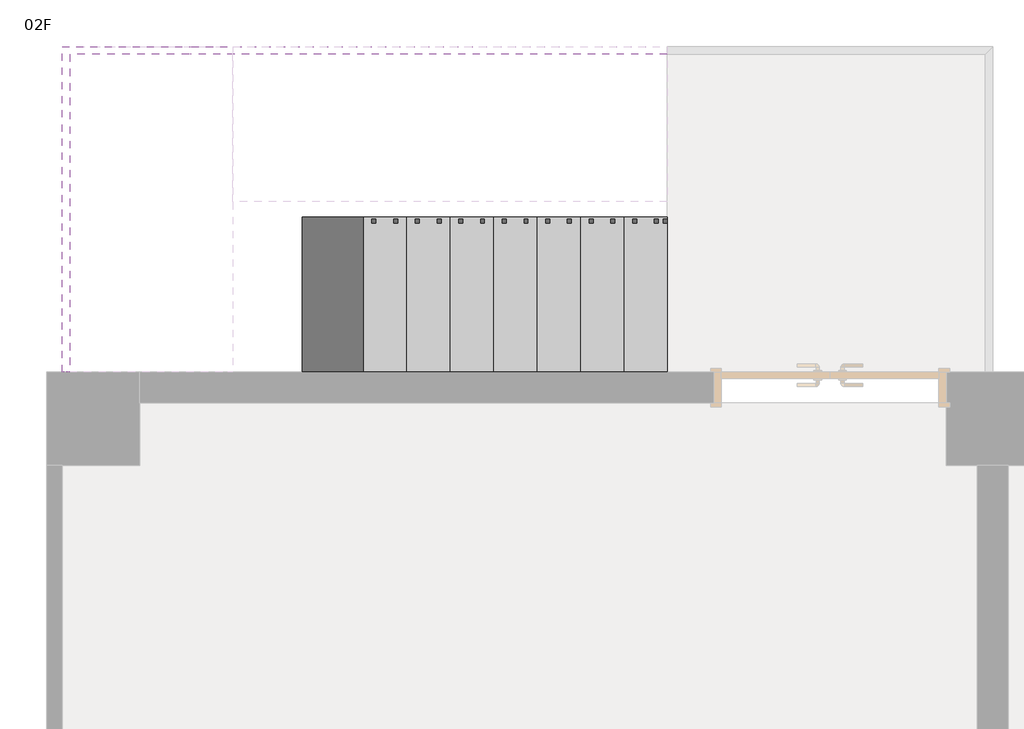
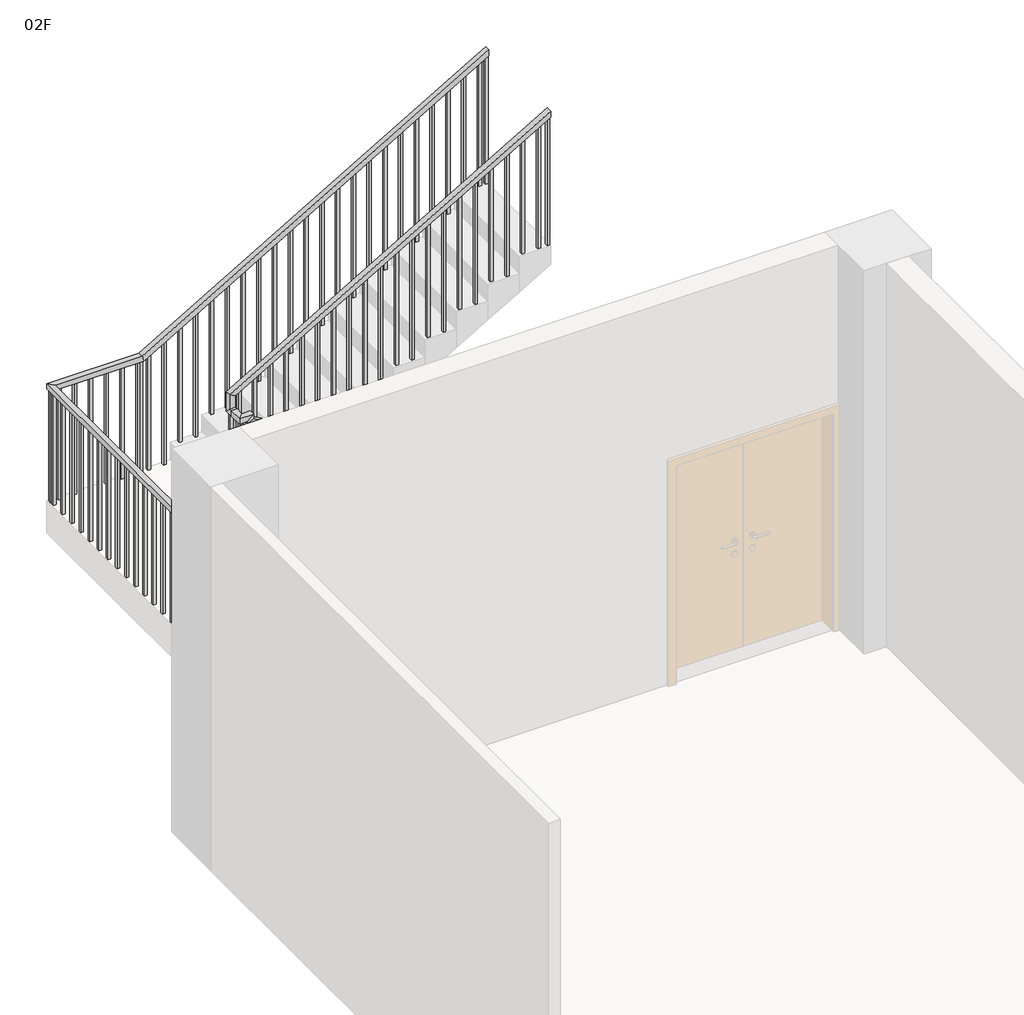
# One storey, part 2 of 3: 2 railings, 1 stair flight.
"""IFC4 building model written with IfcOpenShell, lengths in millimetres."""

import ifcopenshell
import ifcopenshell.guid

model = None  # the IFC model being written
_history = None  # IfcOwnerHistory: only IFC2X3 demands one
_inside = {}  # id of a spatial element -> (the spatial element, [elements in it])
_under = {}  # id of a project, library or spatial element -> (it, [spatial elements below it])
_declared = {}  # id of a project -> (the project, [libraries it declares])
_typed = {}  # id of a type object -> (the type object, [elements of that type])
_made_of = {}  # id of a material, layer set ... -> (it, [elements and type objects made of it])


def new_model(schema):
    """Start an empty IFC model of exactly this schema.

    Asked for "IFC4X3", IfcOpenShell would pick the latest addendum, in which some entities
    have other attributes; the version numbers below select the first issue.
    IFC2X3 requires an IfcOwnerHistory on every rooted entity: one is made here for all.
    """
    global model, _history
    if schema == "IFC4X3":
        model = ifcopenshell.file(schema_version=(4, 3, 0, 0))
    else:
        model = ifcopenshell.file(schema=schema)
    _inside.clear()
    _under.clear()
    _declared.clear()
    _typed.clear()
    _made_of.clear()
    _history = None
    if model.schema == "IFC2X3":
        org = make("IfcOrganization", Name="unknown")
        user = make(
            "IfcPersonAndOrganization",
            ThePerson=make("IfcPerson", FamilyName="unknown"),
            TheOrganization=org,
        )
        app = make(
            "IfcApplication",
            ApplicationDeveloper=org,
            Version="unknown",
            ApplicationFullName="unknown",
            ApplicationIdentifier="unknown",
        )
        _history = make(
            "IfcOwnerHistory",
            OwningUser=user,
            OwningApplication=app,
            ChangeAction="ADDED",
            CreationDate=0,
        )
    return model


def make(cls, **values):
    """One entity of the class cls with the attributes given. An attribute that is None is left unset."""
    return model.create_entity(
        cls, **{name: value for name, value in values.items() if value is not None}
    )


def rooted(cls, **values):
    """An entity with a GlobalId (a new one), such as an element, a storey or a relation."""
    return make(cls, GlobalId=ifcopenshell.guid.new(), OwnerHistory=_history, **values)


def si_unit(unit_type, name, prefix=None):
    """IfcSIUnit, for example si_unit("LENGTHUNIT", "METRE", prefix="MILLI")."""
    return make("IfcSIUnit", UnitType=unit_type, Prefix=prefix, Name=name)


def assignment(units):
    """IfcUnitAssignment: the units of a project."""
    return None if units is None else make("IfcUnitAssignment", Units=units)


def point(xyz):
    """IfcCartesianPoint."""
    return None if xyz is None else make("IfcCartesianPoint", Coordinates=xyz)


def direction(xyz):
    """IfcDirection."""
    return None if xyz is None else make("IfcDirection", DirectionRatios=xyz)


def frame(location, z_axis=None, x_axis=None):
    """IfcAxis2Placement3D, a coordinate frame: its origin and axes. An axis left out is left unset."""
    return make(
        "IfcAxis2Placement3D",
        Location=point(location),
        Axis=direction(z_axis),
        RefDirection=direction(x_axis),
    )


def origin():
    """The frame at (0, 0, 0) with its axes left unset."""
    return frame((0.0, 0.0, 0.0))


def place(relative_to, where):
    """IfcLocalPlacement: puts the frame where relative to a parent placement (None: the world)."""
    return make(
        "IfcLocalPlacement", PlacementRelTo=relative_to, RelativePlacement=where
    )


def context(
    kind, dimensions, precision=None, world=None, true_north=None, identifier=None
):
    """IfcGeometricRepresentationContext, for example the 3D "Model" context."""
    return make(
        "IfcGeometricRepresentationContext",
        ContextIdentifier=identifier,
        ContextType=kind,
        CoordinateSpaceDimension=dimensions,
        Precision=precision,
        WorldCoordinateSystem=world,
        TrueNorth=true_north,
    )


def project(units=None, contexts=None):
    """IfcProject with its units and contexts."""
    return rooted(
        "IfcProject",
        Name="project",
        RepresentationContexts=contexts,
        UnitsInContext=assignment(units),
    )


def spatial(cls, under=None, at=None, **own):
    """A site, building, storey or space (cls), placed at a placement, below another one or the project."""
    s = rooted(cls, ObjectPlacement=at, **own)
    if under is not None:
        _under.setdefault(under.id(), (under, []))[1].append(s)
    return s


def polyline(points):
    """IfcPolyline through the points."""
    return make("IfcPolyline", Points=[point(p) for p in points])


def outline(outer, holes=None, kind="AREA"):
    """IfcArbitraryClosedProfileDef: a profile drawn as a closed curve; with holes, ...WithVoids."""
    if holes is None:
        return make("IfcArbitraryClosedProfileDef", ProfileType=kind, OuterCurve=outer)
    return make(
        "IfcArbitraryProfileDefWithVoids",
        ProfileType=kind,
        OuterCurve=outer,
        InnerCurves=holes,
    )


def extrude(swept, where, along, depth):
    """IfcExtrudedAreaSolid: the profile swept, set in the frame where, extruded along a direction by depth."""
    return make(
        "IfcExtrudedAreaSolid",
        SweptArea=swept,
        Position=where,
        ExtrudedDirection=direction(along),
        Depth=depth,
    )


def faces_of(points, faces, orient=None, outer=None):
    """IfcFace entities. A face is a list of loops; a loop is a list of indices into points, from 0.

    orient and outer hold one flag for each loop. By default every Orientation is true, the
    first loop of a face is its IfcFaceOuterBound and the others are IfcFaceBound.
    """
    made = []
    for i, loops in enumerate(faces):
        bounds = []
        for j, loop in enumerate(loops):
            is_outer = j == 0 if outer is None else outer[i][j]
            bounds.append(
                make(
                    "IfcFaceOuterBound" if is_outer else "IfcFaceBound",
                    Bound=make("IfcPolyLoop", Polygon=[points[k] for k in loop]),
                    Orientation=True if orient is None else orient[i][j],
                )
            )
        made.append(make("IfcFace", Bounds=bounds))
    return made


def faceted_brep(points, faces, orient=None, outer=None, voids=None):
    """IfcFacetedBrep: a solid bounded by flat faces; with voids (closed shells), ...WithVoids."""
    shared = [point(p) for p in points]
    hull = make("IfcClosedShell", CfsFaces=faces_of(shared, faces, orient, outer))
    if voids is None:
        return make("IfcFacetedBrep", Outer=hull)
    return make(
        "IfcFacetedBrepWithVoids",
        Outer=hull,
        Voids=[
            make(cls, CfsFaces=faces_of(shared, fs, o, b)) for cls, fs, o, b in voids
        ],
    )


def shape(context_of_items, identifier, shape_type, items):
    """IfcShapeRepresentation: the items that make up one representation, for example the "Body"."""
    return make(
        "IfcShapeRepresentation",
        ContextOfItems=context_of_items,
        RepresentationIdentifier=identifier,
        RepresentationType=shape_type,
        Items=items,
    )


def made_of(thing, what):
    """Note that an element or type object is made of a material, layer set ...; save() writes the relation."""
    if what is not None:
        _made_of.setdefault(what.id(), (what, []))[1].append(thing)
    return thing


def element(
    cls,
    number,
    at=None,
    inside=None,
    cuts=None,
    type_object=None,
    material=None,
    context=None,
    identifier="Body",
    shape_type=None,
    held_by="IfcProductDefinitionShape",
    body=None,
    shapes=None,
    **own,
):
    """One element of the class cls, such as IfcWall. Its Tag is "e" and its number.

    at: its placement. inside: the storey or other place that contains it. cuts: it is an
    opening in that element (IfcRelVoidsElement). A single representation is given by context,
    identifier, shape_type and body (its items); several are given by shapes. held_by: the class
    of the entity that holds the representations. save() writes the other relations.
    """
    e = rooted(cls, Tag="e%d" % number, ObjectPlacement=at, **own)
    if body is not None:
        shapes = [shape(context, identifier, shape_type, body)]
    if shapes is not None:
        e.Representation = make(held_by, Representations=shapes)
    if inside is not None:
        _inside.setdefault(inside.id(), (inside, []))[1].append(e)
    if cuts is not None:
        rooted(
            "IfcRelVoidsElement", RelatingBuildingElement=cuts, RelatedOpeningElement=e
        )
    if type_object is not None:
        _typed.setdefault(type_object.id(), (type_object, []))[1].append(e)
    return made_of(e, material)


def aggregate(whole, parts):
    """IfcRelAggregates: a whole, such as a stair, and the parts it consists of."""
    return rooted("IfcRelAggregates", RelatingObject=whole, RelatedObjects=parts)


def save(model, path):
    """Write the relations noted so far, then the file.

    IfcRelAggregates (storeys below a building ...), IfcRelContainedInSpatialStructure (elements
    in a storey), IfcRelDefinesByType, IfcRelAssociatesMaterial and IfcRelDeclares: one each for
    every whole, place, type object, material and project.
    """
    for whole, parts in _under.values():
        aggregate(whole, parts)
    for where, things in _inside.values():
        rooted(
            "IfcRelContainedInSpatialStructure",
            RelatedElements=things,
            RelatingStructure=where,
        )
    for kind, things in _typed.values():
        rooted("IfcRelDefinesByType", RelatedObjects=things, RelatingType=kind)
    for what, things in _made_of.values():
        rooted("IfcRelAssociatesMaterial", RelatedObjects=things, RelatingMaterial=what)
    for by, libraries in _declared.values():
        rooted("IfcRelDeclares", RelatingContext=by, RelatedDefinitions=libraries)
    model.write(path)


model = new_model("IFC4")

# Units and contexts
model_context = context("Model", 3, world=origin())
ifc_project = project(units=[si_unit("LENGTHUNIT", "METRE", prefix="MILLI")], contexts=[model_context])

# Site, building, storey
site = spatial("IfcSite", under=ifc_project)
building = spatial("IfcBuilding", under=site)
storey = spatial("IfcBuildingStorey", under=building, Name="02F", Elevation=3600.0)

# Railings
placement = place(None, origin())
element("IfcRailing", 1, ObjectType="1100mm", at=placement, inside=storey, context=model_context, shape_type="SolidModel", body=[
    faceted_brep([(3900.0, 14549.6, 4863.6363636), (3900.0, 14549.6, 4805.7238957), (3900.0, 14599.6, 4805.7238957), (3900.0, 14599.6, 4863.6363636), (1174.6, 14549.6, 6456.4025974), (1124.6, 14549.6, 6427.7109087), (1124.6, 14599.6, 6427.7109087), (1174.6, 14599.6, 6456.4025974), (1174.6, 14549.6, 6500.0), (1124.6, 14549.6, 6450.0), (1124.6, 14599.6, 6450.0), (1174.6, 14599.6, 6500.0), (1049.6, 14549.6, 6500.0), (1049.6, 14549.6, 6450.0), (1099.6, 14599.6, 6450.0), (1099.6, 14599.6, 6500.0), (1049.6, 14674.6, 6500.0), (1049.6, 14674.6, 6450.0), (1099.6, 14674.6, 6450.0), (1099.6, 14674.6, 6500.0), (1049.6, 14700.4, 6500.0), (1099.6, 14700.4, 6500.0), (1099.6, 14750.4, 6450.0), (1049.6, 14750.4, 6450.0)], [[[0, 1, 2, 3]], [[1, 0, 4, 5]], [[2, 1, 5, 6]], [[3, 2, 6, 7]], [[0, 3, 7, 4]], [[5, 4, 8, 9]], [[6, 5, 9, 10]], [[7, 6, 10, 11]], [[4, 7, 11, 8]], [[9, 8, 12, 13]], [[10, 9, 13, 14]], [[11, 10, 14, 15]], [[8, 11, 15, 12]], [[13, 12, 16, 17]], [[14, 13, 17, 18]], [[15, 14, 18, 19]], [[12, 15, 19, 16]], [[20, 21, 22, 23]], [[17, 16, 20, 23]], [[18, 17, 23, 22]], [[19, 18, 22, 21]], [[16, 19, 21, 20]]]),
    faceted_brep([(1049.6, 14700.4, 6500.0), (1049.6, 14750.4, 6450.0), (1099.6, 14750.4, 6450.0), (1099.6, 14700.4, 6500.0), (1049.6, 14700.4, 6634.1818182), (1099.6, 14700.4, 6605.4901295), (1099.6, 14750.4, 6605.4901295), (1049.6, 14750.4, 6634.1818182)], [[[0, 1, 2, 3]], [[4, 5, 6, 7]], [[1, 0, 4, 7]], [[2, 1, 7, 6]], [[3, 2, 6, 5]], [[0, 3, 5, 4]]]),
    faceted_brep([(1049.6, 14750.4, 6634.1818182), (1099.6, 14750.4, 6605.4901295), (1099.6, 14700.4, 6605.4901295), (1049.6, 14700.4, 6634.1818182), (3900.0, 14750.4, 8300.0), (3900.0, 14700.4, 8300.0), (3900.0, 14700.4, 8242.0875321), (3900.0, 14750.4, 8242.0875321)], [[[0, 1, 2, 3]], [[4, 5, 6, 7]], [[1, 0, 4, 7]], [[2, 1, 7, 6]], [[3, 2, 6, 5]], [[0, 3, 5, 4]]]),
    extrude(outline(polyline([(8179.0290905, 3792.1), (7036.3636364, 3792.1), (7036.3636364, 3817.1), (8193.6394802, 3817.1), (8179.0290905, 3792.1)])), frame((0.0, 14712.9, 0.0), z_axis=(0.0, 1.0, 0.0), x_axis=(0.0, 0.0, 1.0)), (0.0, 0.0, 1.0), 25.0),
    extrude(outline(polyline([(8097.2109087, 3652.1), (7036.3636364, 3652.1), (7036.3636364, 3677.1), (8111.8212983, 3677.1), (8097.2109087, 3652.1)])), frame((0.0, 14712.9, 0.0), z_axis=(0.0, 1.0, 0.0), x_axis=(0.0, 0.0, 1.0)), (0.0, 0.0, 1.0), 25.0),
    extrude(outline(polyline([(8015.3927269, 3512.1), (6872.7272727, 3512.1), (6872.7272727, 3537.1), (8030.0031165, 3537.1), (8015.3927269, 3512.1)])), frame((0.0, 14712.9, 0.0), z_axis=(0.0, 1.0, 0.0), x_axis=(0.0, 0.0, 1.0)), (0.0, 0.0, 1.0), 25.0),
    extrude(outline(polyline([(7933.5745451, 3372.1), (6872.7272727, 3372.1), (6872.7272727, 3397.1), (7948.1849347, 3397.1), (7933.5745451, 3372.1)])), frame((0.0, 14712.9, 0.0), z_axis=(0.0, 1.0, 0.0), x_axis=(0.0, 0.0, 1.0)), (0.0, 0.0, 1.0), 25.0),
    extrude(outline(polyline([(7851.7563633, 3232.1), (6709.0909091, 3232.1), (6709.0909091, 3257.1), (7866.3667529, 3257.1), (7851.7563633, 3232.1)])), frame((0.0, 14712.9, 0.0), z_axis=(0.0, 1.0, 0.0), x_axis=(0.0, 0.0, 1.0)), (0.0, 0.0, 1.0), 25.0),
    extrude(outline(polyline([(7769.9381815, 3092.1), (6709.0909091, 3092.1), (6709.0909091, 3117.1), (7784.5485711, 3117.1), (7769.9381815, 3092.1)])), frame((0.0, 14712.9, 0.0), z_axis=(0.0, 1.0, 0.0), x_axis=(0.0, 0.0, 1.0)), (0.0, 0.0, 1.0), 25.0),
    extrude(outline(polyline([(7688.1199996, 2952.1), (6545.4545455, 2952.1), (6545.4545455, 2977.1), (7702.7303892, 2977.1), (7688.1199996, 2952.1)])), frame((0.0, 14712.9, 0.0), z_axis=(0.0, 1.0, 0.0), x_axis=(0.0, 0.0, 1.0)), (0.0, 0.0, 1.0), 25.0),
    extrude(outline(polyline([(7606.3018178, 2812.1), (6545.4545455, 2812.1), (6545.4545455, 2837.1), (7620.9122074, 2837.1), (7606.3018178, 2812.1)])), frame((0.0, 14712.9, 0.0), z_axis=(0.0, 1.0, 0.0), x_axis=(0.0, 0.0, 1.0)), (0.0, 0.0, 1.0), 25.0),
    extrude(outline(polyline([(7524.483636, 2672.1), (6381.8181818, 2672.1), (6381.8181818, 2697.1), (7539.0940256, 2697.1), (7524.483636, 2672.1)])), frame((0.0, 14712.9, 0.0), z_axis=(0.0, 1.0, 0.0), x_axis=(0.0, 0.0, 1.0)), (0.0, 0.0, 1.0), 25.0),
    extrude(outline(polyline([(7442.6654542, 2532.1), (6381.8181818, 2532.1), (6381.8181818, 2557.1), (7457.2758438, 2557.1), (7442.6654542, 2532.1)])), frame((0.0, 14712.9, 0.0), z_axis=(0.0, 1.0, 0.0), x_axis=(0.0, 0.0, 1.0)), (0.0, 0.0, 1.0), 25.0),
    extrude(outline(polyline([(7360.8472724, 2392.1), (6218.1818182, 2392.1), (6218.1818182, 2417.1), (7375.457662, 2417.1), (7360.8472724, 2392.1)])), frame((0.0, 14712.9, 0.0), z_axis=(0.0, 1.0, 0.0), x_axis=(0.0, 0.0, 1.0)), (0.0, 0.0, 1.0), 25.0),
    extrude(outline(polyline([(7279.0290905, 2252.1), (6218.1818182, 2252.1), (6218.1818182, 2277.1), (7293.6394802, 2277.1), (7279.0290905, 2252.1)])), frame((0.0, 14712.9, 0.0), z_axis=(0.0, 1.0, 0.0), x_axis=(0.0, 0.0, 1.0)), (0.0, 0.0, 1.0), 25.0),
    extrude(outline(polyline([(7197.2109087, 2112.1), (6054.5454545, 2112.1), (6054.5454545, 2137.1), (7211.8212983, 2137.1), (7197.2109087, 2112.1)])), frame((0.0, 14712.9, 0.0), z_axis=(0.0, 1.0, 0.0), x_axis=(0.0, 0.0, 1.0)), (0.0, 0.0, 1.0), 25.0),
    extrude(outline(polyline([(7115.3927269, 1972.1), (6054.5454545, 1972.1), (6054.5454545, 1997.1), (7130.0031165, 1997.1), (7115.3927269, 1972.1)])), frame((0.0, 14712.9, 0.0), z_axis=(0.0, 1.0, 0.0), x_axis=(0.0, 0.0, 1.0)), (0.0, 0.0, 1.0), 25.0),
    extrude(outline(polyline([(7033.5745451, 1832.1), (5890.9090909, 1832.1), (5890.9090909, 1857.1), (7048.1849347, 1857.1), (7033.5745451, 1832.1)])), frame((0.0, 14712.9, 0.0), z_axis=(0.0, 1.0, 0.0), x_axis=(0.0, 0.0, 1.0)), (0.0, 0.0, 1.0), 25.0),
    extrude(outline(polyline([(6951.7563633, 1692.1), (5890.9090909, 1692.1), (5890.9090909, 1717.1), (6966.3667529, 1717.1), (6951.7563633, 1692.1)])), frame((0.0, 14712.9, 0.0), z_axis=(0.0, 1.0, 0.0), x_axis=(0.0, 0.0, 1.0)), (0.0, 0.0, 1.0), 25.0),
    extrude(outline(polyline([(6869.9381815, 1552.1), (5727.2727273, 1552.1), (5727.2727273, 1577.1), (6884.5485711, 1577.1), (6869.9381815, 1552.1)])), frame((0.0, 14712.9, 0.0), z_axis=(0.0, 1.0, 0.0), x_axis=(0.0, 0.0, 1.0)), (0.0, 0.0, 1.0), 25.0),
    extrude(outline(polyline([(6788.1199996, 1412.1), (5727.2727273, 1412.1), (5727.2727273, 1437.1), (6802.7303892, 1437.1), (6788.1199996, 1412.1)])), frame((0.0, 14712.9, 0.0), z_axis=(0.0, 1.0, 0.0), x_axis=(0.0, 0.0, 1.0)), (0.0, 0.0, 1.0), 25.0),
    extrude(outline(polyline([(6706.3018178, 1272.1), (5563.6363636, 1272.1), (5563.6363636, 1297.1), (6720.9122074, 1297.1), (6706.3018178, 1272.1)])), frame((0.0, 14712.9, 0.0), z_axis=(0.0, 1.0, 0.0), x_axis=(0.0, 0.0, 1.0)), (0.0, 0.0, 1.0), 25.0),
    extrude(outline(polyline([(6624.483636, 1132.1), (5563.6363636, 1132.1), (5563.6363636, 1157.1), (6639.0940256, 1157.1), (6624.483636, 1132.1)])), frame((0.0, 14712.9, 0.0), z_axis=(0.0, 1.0, 0.0), x_axis=(0.0, 0.0, 1.0)), (0.0, 0.0, 1.0), 25.0),
    extrude(outline(polyline([(1087.1, 14632.1), (1062.1, 14632.1), (1062.1, 14657.1), (1087.1, 14657.1), (1087.1, 14632.1)])), frame((0.0, 0.0, 5400.0), z_axis=(0.0, 0.0, 1.0), x_axis=(1.0, 0.0, 0.0)), (0.0, 0.0, 1.0), 1050.0),
    extrude(outline(polyline([(5236.3636364, 1182.5), (6393.8732464, 1182.5), (6408.483636, 1157.5), (5236.3636364, 1157.5), (5236.3636364, 1182.5)])), frame((0.0, 14562.1, 0.0), z_axis=(0.0, 1.0, 0.0), x_axis=(0.0, 0.0, 1.0)), (0.0, 0.0, 1.0), 25.0),
    extrude(outline(polyline([(5236.3636364, 1322.5), (6312.0550646, 1322.5), (6326.6654542, 1297.5), (5236.3636364, 1297.5), (5236.3636364, 1322.5)])), frame((0.0, 14562.1, 0.0), z_axis=(0.0, 1.0, 0.0), x_axis=(0.0, 0.0, 1.0)), (0.0, 0.0, 1.0), 25.0),
    extrude(outline(polyline([(5072.7272727, 1462.5), (6230.2368827, 1462.5), (6244.8472724, 1437.5), (5072.7272727, 1437.5), (5072.7272727, 1462.5)])), frame((0.0, 14562.1, 0.0), z_axis=(0.0, 1.0, 0.0), x_axis=(0.0, 0.0, 1.0)), (0.0, 0.0, 1.0), 25.0),
    extrude(outline(polyline([(5072.7272727, 1602.5), (6148.4187009, 1602.5), (6163.0290905, 1577.5), (5072.7272727, 1577.5), (5072.7272727, 1602.5)])), frame((0.0, 14562.1, 0.0), z_axis=(0.0, 1.0, 0.0), x_axis=(0.0, 0.0, 1.0)), (0.0, 0.0, 1.0), 25.0),
    extrude(outline(polyline([(4909.0909091, 1742.5), (6066.6005191, 1742.5), (6081.2109087, 1717.5), (4909.0909091, 1717.5), (4909.0909091, 1742.5)])), frame((0.0, 14562.1, 0.0), z_axis=(0.0, 1.0, 0.0), x_axis=(0.0, 0.0, 1.0)), (0.0, 0.0, 1.0), 25.0),
    extrude(outline(polyline([(4909.0909091, 1882.5), (5984.7823373, 1882.5), (5999.3927269, 1857.5), (4909.0909091, 1857.5), (4909.0909091, 1882.5)])), frame((0.0, 14562.1, 0.0), z_axis=(0.0, 1.0, 0.0), x_axis=(0.0, 0.0, 1.0)), (0.0, 0.0, 1.0), 25.0),
    extrude(outline(polyline([(4745.4545455, 2022.5), (5902.9641555, 2022.5), (5917.5745451, 1997.5), (4745.4545455, 1997.5), (4745.4545455, 2022.5)])), frame((0.0, 14562.1, 0.0), z_axis=(0.0, 1.0, 0.0), x_axis=(0.0, 0.0, 1.0)), (0.0, 0.0, 1.0), 25.0),
    extrude(outline(polyline([(4745.4545455, 2162.5), (5821.1459737, 2162.5), (5835.7563633, 2137.5), (4745.4545455, 2137.5), (4745.4545455, 2162.5)])), frame((0.0, 14562.1, 0.0), z_axis=(0.0, 1.0, 0.0), x_axis=(0.0, 0.0, 1.0)), (0.0, 0.0, 1.0), 25.0),
    extrude(outline(polyline([(4581.8181818, 2302.5), (5739.3277918, 2302.5), (5753.9381815, 2277.5), (4581.8181818, 2277.5), (4581.8181818, 2302.5)])), frame((0.0, 14562.1, 0.0), z_axis=(0.0, 1.0, 0.0), x_axis=(0.0, 0.0, 1.0)), (0.0, 0.0, 1.0), 25.0),
    extrude(outline(polyline([(4581.8181818, 2442.5), (5657.50961, 2442.5), (5672.1199996, 2417.5), (4581.8181818, 2417.5), (4581.8181818, 2442.5)])), frame((0.0, 14562.1, 0.0), z_axis=(0.0, 1.0, 0.0), x_axis=(0.0, 0.0, 1.0)), (0.0, 0.0, 1.0), 25.0),
    extrude(outline(polyline([(4418.1818182, 2582.5), (5575.6914282, 2582.5), (5590.3018178, 2557.5), (4418.1818182, 2557.5), (4418.1818182, 2582.5)])), frame((0.0, 14562.1, 0.0), z_axis=(0.0, 1.0, 0.0), x_axis=(0.0, 0.0, 1.0)), (0.0, 0.0, 1.0), 25.0),
    extrude(outline(polyline([(4418.1818182, 2722.5), (5493.8732464, 2722.5), (5508.483636, 2697.5), (4418.1818182, 2697.5), (4418.1818182, 2722.5)])), frame((0.0, 14562.1, 0.0), z_axis=(0.0, 1.0, 0.0), x_axis=(0.0, 0.0, 1.0)), (0.0, 0.0, 1.0), 25.0),
    extrude(outline(polyline([(4254.5454545, 2862.5), (5412.0550646, 2862.5), (5426.6654542, 2837.5), (4254.5454545, 2837.5), (4254.5454545, 2862.5)])), frame((0.0, 14562.1, 0.0), z_axis=(0.0, 1.0, 0.0), x_axis=(0.0, 0.0, 1.0)), (0.0, 0.0, 1.0), 25.0),
    extrude(outline(polyline([(4254.5454545, 3002.5), (5330.2368827, 3002.5), (5344.8472724, 2977.5), (4254.5454545, 2977.5), (4254.5454545, 3002.5)])), frame((0.0, 14562.1, 0.0), z_axis=(0.0, 1.0, 0.0), x_axis=(0.0, 0.0, 1.0)), (0.0, 0.0, 1.0), 25.0),
    extrude(outline(polyline([(4090.9090909, 3142.5), (5248.4187009, 3142.5), (5263.0290905, 3117.5), (4090.9090909, 3117.5), (4090.9090909, 3142.5)])), frame((0.0, 14562.1, 0.0), z_axis=(0.0, 1.0, 0.0), x_axis=(0.0, 0.0, 1.0)), (0.0, 0.0, 1.0), 25.0),
    extrude(outline(polyline([(4090.9090909, 3282.5), (5166.6005191, 3282.5), (5181.2109087, 3257.5), (4090.9090909, 3257.5), (4090.9090909, 3282.5)])), frame((0.0, 14562.1, 0.0), z_axis=(0.0, 1.0, 0.0), x_axis=(0.0, 0.0, 1.0)), (0.0, 0.0, 1.0), 25.0),
    extrude(outline(polyline([(3927.2727273, 3422.5), (5084.7823373, 3422.5), (5099.3927269, 3397.5), (3927.2727273, 3397.5), (3927.2727273, 3422.5)])), frame((0.0, 14562.1, 0.0), z_axis=(0.0, 1.0, 0.0), x_axis=(0.0, 0.0, 1.0)), (0.0, 0.0, 1.0), 25.0),
    extrude(outline(polyline([(3927.2727273, 3562.5), (5002.9641555, 3562.5), (5017.5745451, 3537.5), (3927.2727273, 3537.5), (3927.2727273, 3562.5)])), frame((0.0, 14562.1, 0.0), z_axis=(0.0, 1.0, 0.0), x_axis=(0.0, 0.0, 1.0)), (0.0, 0.0, 1.0), 25.0),
    extrude(outline(polyline([(3763.6363636, 3702.5), (4921.1459737, 3702.5), (4935.7563633, 3677.5), (3763.6363636, 3677.5), (3763.6363636, 3702.5)])), frame((0.0, 14562.1, 0.0), z_axis=(0.0, 1.0, 0.0), x_axis=(0.0, 0.0, 1.0)), (0.0, 0.0, 1.0), 25.0),
    extrude(outline(polyline([(3763.6363636, 3842.5), (4839.3277918, 3842.5), (4853.9381815, 3817.5), (3763.6363636, 3817.5), (3763.6363636, 3842.5)])), frame((0.0, 14562.1, 0.0), z_axis=(0.0, 1.0, 0.0), x_axis=(0.0, 0.0, 1.0)), (0.0, 0.0, 1.0), 25.0),
    extrude(outline(polyline([(1062.1, 14712.9), (1062.1, 14737.9), (1087.1, 14737.9), (1087.1, 14712.9), (1062.1, 14712.9)])), frame((0.0, 0.0, 5400.0), z_axis=(0.0, 0.0, 1.0), x_axis=(1.0, 0.0, 0.0)), (0.0, 0.0, 1.0), 1050.0),
    extrude(outline(polyline([(1087.1, 14587.1), (1087.1, 14562.1), (1062.1, 14562.1), (1062.1, 14587.1), (1087.1, 14587.1)])), frame((0.0, 0.0, 5400.0), z_axis=(0.0, 0.0, 1.0), x_axis=(1.0, 0.0, 0.0)), (0.0, 0.0, 1.0), 1050.0),
    extrude(outline(polyline([(1112.5, 14587.1), (1112.5, 14562.1), (1087.5, 14562.1), (1087.5, 14587.1), (1112.5, 14587.1)])), frame((0.0, 0.0, 5400.0), z_axis=(0.0, 0.0, 1.0), x_axis=(1.0, 0.0, 0.0)), (0.0, 0.0, 1.0), 1050.0),
    extrude(outline(polyline([(8227.4771425, 3875.0), (7036.3636364, 3875.0), (7036.3636364, 3900.0), (8242.0875321, 3900.0), (8227.4771425, 3875.0)])), frame((0.0, 14712.9, 0.0), z_axis=(0.0, 1.0, 0.0), x_axis=(0.0, 0.0, 1.0)), (0.0, 0.0, 1.0), 25.0),
    extrude(outline(polyline([(3763.6363636, 3900.0), (4805.7238957, 3900.0), (4820.3342853, 3875.0), (3763.6363636, 3875.0), (3763.6363636, 3900.0)])), frame((0.0, 14562.1, 0.0), z_axis=(0.0, 1.0, 0.0), x_axis=(0.0, 0.0, 1.0)), (0.0, 0.0, 1.0), 25.0),
])
element("IfcRailing", 2, ObjectType="1100mm", at=placement, inside=storey, context=model_context, shape_type="SolidModel", body=[
    faceted_brep([(0.4, 13600.0, 6500.0), (0.4, 13600.0, 6450.0), (50.4, 13600.0, 6450.0), (50.4, 13600.0, 6500.0), (0.4, 15699.6, 6500.0), (0.4, 15699.6, 6450.0), (50.4, 15649.6, 6450.0), (50.4, 15649.6, 6500.0), (820.0, 15699.6, 6500.0), (833.5391117, 15699.6, 6450.0), (833.5391117, 15649.6, 6450.0), (820.0, 15649.6, 6500.0), (3900.0, 15699.6, 8300.0), (3900.0, 15649.6, 8300.0), (3900.0, 15649.6, 8242.0875321), (3900.0, 15699.6, 8242.0875321)], [[[0, 1, 2, 3]], [[1, 0, 4, 5]], [[2, 1, 5, 6]], [[3, 2, 6, 7]], [[0, 3, 7, 4]], [[5, 4, 8, 9]], [[6, 5, 9, 10]], [[7, 6, 10, 11]], [[4, 7, 11, 8]], [[12, 13, 14, 15]], [[9, 8, 12, 15]], [[10, 9, 15, 14]], [[11, 10, 14, 13]], [[8, 11, 13, 12]]]),
    extrude(outline(polyline([(7036.3636364, 3817.5), (7036.3636364, 3842.5), (8208.483636, 3842.5), (8193.8732464, 3817.5), (7036.3636364, 3817.5)])), frame((0.0, 15662.1, 0.0), z_axis=(0.0, 1.0, 0.0), x_axis=(0.0, 0.0, 1.0)), (0.0, 0.0, 1.0), 25.0),
    extrude(outline(polyline([(7036.3636364, 3677.5), (7036.3636364, 3702.5), (8126.6654542, 3702.5), (8112.0550646, 3677.5), (7036.3636364, 3677.5)])), frame((0.0, 15662.1, 0.0), z_axis=(0.0, 1.0, 0.0), x_axis=(0.0, 0.0, 1.0)), (0.0, 0.0, 1.0), 25.0),
    extrude(outline(polyline([(6872.7272727, 3537.5), (6872.7272727, 3562.5), (8044.8472724, 3562.5), (8030.2368827, 3537.5), (6872.7272727, 3537.5)])), frame((0.0, 15662.1, 0.0), z_axis=(0.0, 1.0, 0.0), x_axis=(0.0, 0.0, 1.0)), (0.0, 0.0, 1.0), 25.0),
    extrude(outline(polyline([(6872.7272727, 3397.5), (6872.7272727, 3422.5), (7963.0290905, 3422.5), (7948.4187009, 3397.5), (6872.7272727, 3397.5)])), frame((0.0, 15662.1, 0.0), z_axis=(0.0, 1.0, 0.0), x_axis=(0.0, 0.0, 1.0)), (0.0, 0.0, 1.0), 25.0),
    extrude(outline(polyline([(6709.0909091, 3257.5), (6709.0909091, 3282.5), (7881.2109087, 3282.5), (7866.6005191, 3257.5), (6709.0909091, 3257.5)])), frame((0.0, 15662.1, 0.0), z_axis=(0.0, 1.0, 0.0), x_axis=(0.0, 0.0, 1.0)), (0.0, 0.0, 1.0), 25.0),
    extrude(outline(polyline([(6709.0909091, 3117.5), (6709.0909091, 3142.5), (7799.3927269, 3142.5), (7784.7823373, 3117.5), (6709.0909091, 3117.5)])), frame((0.0, 15662.1, 0.0), z_axis=(0.0, 1.0, 0.0), x_axis=(0.0, 0.0, 1.0)), (0.0, 0.0, 1.0), 25.0),
    extrude(outline(polyline([(6545.4545455, 2977.5), (6545.4545455, 3002.5), (7717.5745451, 3002.5), (7702.9641555, 2977.5), (6545.4545455, 2977.5)])), frame((0.0, 15662.1, 0.0), z_axis=(0.0, 1.0, 0.0), x_axis=(0.0, 0.0, 1.0)), (0.0, 0.0, 1.0), 25.0),
    extrude(outline(polyline([(6545.4545455, 2837.5), (6545.4545455, 2862.5), (7635.7563633, 2862.5), (7621.1459737, 2837.5), (6545.4545455, 2837.5)])), frame((0.0, 15662.1, 0.0), z_axis=(0.0, 1.0, 0.0), x_axis=(0.0, 0.0, 1.0)), (0.0, 0.0, 1.0), 25.0),
    extrude(outline(polyline([(6381.8181818, 2697.5), (6381.8181818, 2722.5), (7553.9381815, 2722.5), (7539.3277918, 2697.5), (6381.8181818, 2697.5)])), frame((0.0, 15662.1, 0.0), z_axis=(0.0, 1.0, 0.0), x_axis=(0.0, 0.0, 1.0)), (0.0, 0.0, 1.0), 25.0),
    extrude(outline(polyline([(6381.8181818, 2557.5), (6381.8181818, 2582.5), (7472.1199996, 2582.5), (7457.50961, 2557.5), (6381.8181818, 2557.5)])), frame((0.0, 15662.1, 0.0), z_axis=(0.0, 1.0, 0.0), x_axis=(0.0, 0.0, 1.0)), (0.0, 0.0, 1.0), 25.0),
    extrude(outline(polyline([(6218.1818182, 2417.5), (6218.1818182, 2442.5), (7390.3018178, 2442.5), (7375.6914282, 2417.5), (6218.1818182, 2417.5)])), frame((0.0, 15662.1, 0.0), z_axis=(0.0, 1.0, 0.0), x_axis=(0.0, 0.0, 1.0)), (0.0, 0.0, 1.0), 25.0),
    extrude(outline(polyline([(6218.1818182, 2277.5), (6218.1818182, 2302.5), (7308.483636, 2302.5), (7293.8732464, 2277.5), (6218.1818182, 2277.5)])), frame((0.0, 15662.1, 0.0), z_axis=(0.0, 1.0, 0.0), x_axis=(0.0, 0.0, 1.0)), (0.0, 0.0, 1.0), 25.0),
    extrude(outline(polyline([(6054.5454545, 2137.5), (6054.5454545, 2162.5), (7226.6654542, 2162.5), (7212.0550646, 2137.5), (6054.5454545, 2137.5)])), frame((0.0, 15662.1, 0.0), z_axis=(0.0, 1.0, 0.0), x_axis=(0.0, 0.0, 1.0)), (0.0, 0.0, 1.0), 25.0),
    extrude(outline(polyline([(6054.5454545, 1997.5), (6054.5454545, 2022.5), (7144.8472724, 2022.5), (7130.2368827, 1997.5), (6054.5454545, 1997.5)])), frame((0.0, 15662.1, 0.0), z_axis=(0.0, 1.0, 0.0), x_axis=(0.0, 0.0, 1.0)), (0.0, 0.0, 1.0), 25.0),
    extrude(outline(polyline([(5890.9090909, 1857.5), (5890.9090909, 1882.5), (7063.0290905, 1882.5), (7048.4187009, 1857.5), (5890.9090909, 1857.5)])), frame((0.0, 15662.1, 0.0), z_axis=(0.0, 1.0, 0.0), x_axis=(0.0, 0.0, 1.0)), (0.0, 0.0, 1.0), 25.0),
    extrude(outline(polyline([(5890.9090909, 1717.5), (5890.9090909, 1742.5), (6981.2109087, 1742.5), (6966.6005191, 1717.5), (5890.9090909, 1717.5)])), frame((0.0, 15662.1, 0.0), z_axis=(0.0, 1.0, 0.0), x_axis=(0.0, 0.0, 1.0)), (0.0, 0.0, 1.0), 25.0),
    extrude(outline(polyline([(5727.2727273, 1577.5), (5727.2727273, 1602.5), (6899.3927269, 1602.5), (6884.7823373, 1577.5), (5727.2727273, 1577.5)])), frame((0.0, 15662.1, 0.0), z_axis=(0.0, 1.0, 0.0), x_axis=(0.0, 0.0, 1.0)), (0.0, 0.0, 1.0), 25.0),
    extrude(outline(polyline([(5727.2727273, 1437.5), (5727.2727273, 1462.5), (6817.5745451, 1462.5), (6802.9641555, 1437.5), (5727.2727273, 1437.5)])), frame((0.0, 15662.1, 0.0), z_axis=(0.0, 1.0, 0.0), x_axis=(0.0, 0.0, 1.0)), (0.0, 0.0, 1.0), 25.0),
    extrude(outline(polyline([(5563.6363636, 1297.5), (5563.6363636, 1322.5), (6735.7563633, 1322.5), (6721.1459737, 1297.5), (5563.6363636, 1297.5)])), frame((0.0, 15662.1, 0.0), z_axis=(0.0, 1.0, 0.0), x_axis=(0.0, 0.0, 1.0)), (0.0, 0.0, 1.0), 25.0),
    extrude(outline(polyline([(5563.6363636, 1157.5), (5563.6363636, 1182.5), (6653.9381815, 1182.5), (6639.3277918, 1157.5), (5563.6363636, 1157.5)])), frame((0.0, 15662.1, 0.0), z_axis=(0.0, 1.0, 0.0), x_axis=(0.0, 0.0, 1.0)), (0.0, 0.0, 1.0), 25.0),
    extrude(outline(polyline([(5400.0, 1017.5), (5400.0, 1042.5), (6572.1199996, 1042.5), (6557.50961, 1017.5), (5400.0, 1017.5)])), frame((0.0, 15662.1, 0.0), z_axis=(0.0, 1.0, 0.0), x_axis=(0.0, 0.0, 1.0)), (0.0, 0.0, 1.0), 25.0),
    extrude(outline(polyline([(5400.0, 877.5), (5400.0, 902.5), (6490.3018178, 902.5), (6475.6914282, 877.5), (5400.0, 877.5)])), frame((0.0, 15662.1, 0.0), z_axis=(0.0, 1.0, 0.0), x_axis=(0.0, 0.0, 1.0)), (0.0, 0.0, 1.0), 25.0),
    extrude(outline(polyline([(782.9, 15687.1), (807.9, 15687.1), (807.9, 15662.1), (782.9, 15662.1), (782.9, 15687.1)])), frame((0.0, 0.0, 5400.0), z_axis=(0.0, 0.0, 1.0), x_axis=(1.0, 0.0, 0.0)), (0.0, 0.0, 1.0), 1050.0),
    extrude(outline(polyline([(642.9, 15687.1), (667.9, 15687.1), (667.9, 15662.1), (642.9, 15662.1), (642.9, 15687.1)])), frame((0.0, 0.0, 5400.0), z_axis=(0.0, 0.0, 1.0), x_axis=(1.0, 0.0, 0.0)), (0.0, 0.0, 1.0), 1050.0),
    extrude(outline(polyline([(502.9, 15687.1), (527.9, 15687.1), (527.9, 15662.1), (502.9, 15662.1), (502.9, 15687.1)])), frame((0.0, 0.0, 5400.0), z_axis=(0.0, 0.0, 1.0), x_axis=(1.0, 0.0, 0.0)), (0.0, 0.0, 1.0), 1050.0),
    extrude(outline(polyline([(362.9, 15687.1), (387.9, 15687.1), (387.9, 15662.1), (362.9, 15662.1), (362.9, 15687.1)])), frame((0.0, 0.0, 5400.0), z_axis=(0.0, 0.0, 1.0), x_axis=(1.0, 0.0, 0.0)), (0.0, 0.0, 1.0), 1050.0),
    extrude(outline(polyline([(222.9, 15687.1), (247.9, 15687.1), (247.9, 15662.1), (222.9, 15662.1), (222.9, 15687.1)])), frame((0.0, 0.0, 5400.0), z_axis=(0.0, 0.0, 1.0), x_axis=(1.0, 0.0, 0.0)), (0.0, 0.0, 1.0), 1050.0),
    extrude(outline(polyline([(82.9, 15687.1), (107.9, 15687.1), (107.9, 15662.1), (82.9, 15662.1), (82.9, 15687.1)])), frame((0.0, 0.0, 5400.0), z_axis=(0.0, 0.0, 1.0), x_axis=(1.0, 0.0, 0.0)), (0.0, 0.0, 1.0), 1050.0),
    extrude(outline(polyline([(12.9, 15617.5), (12.9, 15642.5), (37.9, 15642.5), (37.9, 15617.5), (12.9, 15617.5)])), frame((0.0, 0.0, 5400.0), z_axis=(0.0, 0.0, 1.0), x_axis=(1.0, 0.0, 0.0)), (0.0, 0.0, 1.0), 1050.0),
    extrude(outline(polyline([(12.9, 15477.5), (12.9, 15502.5), (37.9, 15502.5), (37.9, 15477.5), (12.9, 15477.5)])), frame((0.0, 0.0, 5400.0), z_axis=(0.0, 0.0, 1.0), x_axis=(1.0, 0.0, 0.0)), (0.0, 0.0, 1.0), 1050.0),
    extrude(outline(polyline([(12.9, 15337.5), (12.9, 15362.5), (37.9, 15362.5), (37.9, 15337.5), (12.9, 15337.5)])), frame((0.0, 0.0, 5400.0), z_axis=(0.0, 0.0, 1.0), x_axis=(1.0, 0.0, 0.0)), (0.0, 0.0, 1.0), 1050.0),
    extrude(outline(polyline([(12.9, 15197.5), (12.9, 15222.5), (37.9, 15222.5), (37.9, 15197.5), (12.9, 15197.5)])), frame((0.0, 0.0, 5400.0), z_axis=(0.0, 0.0, 1.0), x_axis=(1.0, 0.0, 0.0)), (0.0, 0.0, 1.0), 1050.0),
    extrude(outline(polyline([(12.9, 15057.5), (12.9, 15082.5), (37.9, 15082.5), (37.9, 15057.5), (12.9, 15057.5)])), frame((0.0, 0.0, 5400.0), z_axis=(0.0, 0.0, 1.0), x_axis=(1.0, 0.0, 0.0)), (0.0, 0.0, 1.0), 1050.0),
    extrude(outline(polyline([(12.9, 14917.5), (12.9, 14942.5), (37.9, 14942.5), (37.9, 14917.5), (12.9, 14917.5)])), frame((0.0, 0.0, 5400.0), z_axis=(0.0, 0.0, 1.0), x_axis=(1.0, 0.0, 0.0)), (0.0, 0.0, 1.0), 1050.0),
    extrude(outline(polyline([(12.9, 14777.5), (12.9, 14802.5), (37.9, 14802.5), (37.9, 14777.5), (12.9, 14777.5)])), frame((0.0, 0.0, 5400.0), z_axis=(0.0, 0.0, 1.0), x_axis=(1.0, 0.0, 0.0)), (0.0, 0.0, 1.0), 1050.0),
    extrude(outline(polyline([(12.9, 14637.5), (12.9, 14662.5), (37.9, 14662.5), (37.9, 14637.5), (12.9, 14637.5)])), frame((0.0, 0.0, 5400.0), z_axis=(0.0, 0.0, 1.0), x_axis=(1.0, 0.0, 0.0)), (0.0, 0.0, 1.0), 1050.0),
    extrude(outline(polyline([(12.9, 14497.5), (12.9, 14522.5), (37.9, 14522.5), (37.9, 14497.5), (12.9, 14497.5)])), frame((0.0, 0.0, 5400.0), z_axis=(0.0, 0.0, 1.0), x_axis=(1.0, 0.0, 0.0)), (0.0, 0.0, 1.0), 1050.0),
    extrude(outline(polyline([(12.9, 14357.5), (12.9, 14382.5), (37.9, 14382.5), (37.9, 14357.5), (12.9, 14357.5)])), frame((0.0, 0.0, 5400.0), z_axis=(0.0, 0.0, 1.0), x_axis=(1.0, 0.0, 0.0)), (0.0, 0.0, 1.0), 1050.0),
    extrude(outline(polyline([(12.9, 14217.5), (12.9, 14242.5), (37.9, 14242.5), (37.9, 14217.5), (12.9, 14217.5)])), frame((0.0, 0.0, 5400.0), z_axis=(0.0, 0.0, 1.0), x_axis=(1.0, 0.0, 0.0)), (0.0, 0.0, 1.0), 1050.0),
    extrude(outline(polyline([(12.9, 14077.5), (12.9, 14102.5), (37.9, 14102.5), (37.9, 14077.5), (12.9, 14077.5)])), frame((0.0, 0.0, 5400.0), z_axis=(0.0, 0.0, 1.0), x_axis=(1.0, 0.0, 0.0)), (0.0, 0.0, 1.0), 1050.0),
    extrude(outline(polyline([(12.9, 13937.5), (12.9, 13962.5), (37.9, 13962.5), (37.9, 13937.5), (12.9, 13937.5)])), frame((0.0, 0.0, 5400.0), z_axis=(0.0, 0.0, 1.0), x_axis=(1.0, 0.0, 0.0)), (0.0, 0.0, 1.0), 1050.0),
    extrude(outline(polyline([(12.9, 13797.5), (12.9, 13822.5), (37.9, 13822.5), (37.9, 13797.5), (12.9, 13797.5)])), frame((0.0, 0.0, 5400.0), z_axis=(0.0, 0.0, 1.0), x_axis=(1.0, 0.0, 0.0)), (0.0, 0.0, 1.0), 1050.0),
    extrude(outline(polyline([(12.9, 13657.5), (12.9, 13682.5), (37.9, 13682.5), (37.9, 13657.5), (12.9, 13657.5)])), frame((0.0, 0.0, 5400.0), z_axis=(0.0, 0.0, 1.0), x_axis=(1.0, 0.0, 0.0)), (0.0, 0.0, 1.0), 1050.0),
    extrude(outline(polyline([(807.5, 15687.1), (832.5, 15687.1), (832.5, 15662.1), (807.5, 15662.1), (807.5, 15687.1)])), frame((0.0, 0.0, 5400.0), z_axis=(0.0, 0.0, 1.0), x_axis=(1.0, 0.0, 0.0)), (0.0, 0.0, 1.0), 1050.0),
    extrude(outline(polyline([(12.9, 15662.1), (12.9, 15687.1), (37.9, 15687.1), (37.9, 15662.1), (12.9, 15662.1)])), frame((0.0, 0.0, 5400.0), z_axis=(0.0, 0.0, 1.0), x_axis=(1.0, 0.0, 0.0)), (0.0, 0.0, 1.0), 1050.0),
    extrude(outline(polyline([(7036.3636364, 3875.0), (7036.3636364, 3900.0), (8242.0875321, 3900.0), (8227.4771425, 3875.0), (7036.3636364, 3875.0)])), frame((0.0, 15662.1, 0.0), z_axis=(0.0, 1.0, 0.0), x_axis=(0.0, 0.0, 1.0)), (0.0, 0.0, 1.0), 25.0),
    extrude(outline(polyline([(12.9, 13600.0), (12.9, 13625.0), (37.9, 13625.0), (37.9, 13600.0), (12.9, 13600.0)])), frame((0.0, 0.0, 5400.0), z_axis=(0.0, 0.0, 1.0), x_axis=(1.0, 0.0, 0.0)), (0.0, 0.0, 1.0), 1050.0),
])

# Stair flight
element("IfcStairFlight", 3, ObjectType="150mm 结构深度", at=placement, inside=storey, context=model_context, shape_type="Brep", body=[
    faceted_brep([(3620.0, 13600.0, 3763.6363636), (3900.0, 13600.0, 3763.6363636), (3900.0, 14600.0, 3763.6363636), (3620.0, 14600.0, 3763.6363636), (3620.0, 13600.0, 3600.0), (3900.0, 13600.0, 3600.0), (3900.0, 14600.0, 3600.0), (3620.0, 14600.0, 3600.0), (3340.0, 13600.0, 3927.2727273), (3620.0, 13600.0, 3927.2727273), (3620.0, 14600.0, 3927.2727273), (3340.0, 14600.0, 3927.2727273), (3340.0, 13600.0, 3753.5353236), (3602.7159981, 13600.0, 3600.0), (3602.7159981, 14600.0, 3600.0), (3340.0, 14600.0, 3753.5353236), (3060.0, 13600.0, 4090.9090909), (3340.0, 13600.0, 4090.9090909), (3340.0, 14600.0, 4090.9090909), (3060.0, 14600.0, 4090.9090909), (3060.0, 13600.0, 3917.1716872), (3060.0, 14600.0, 3917.1716872), (2780.0, 13600.0, 4254.5454545), (3060.0, 13600.0, 4254.5454545), (3060.0, 14600.0, 4254.5454545), (2780.0, 14600.0, 4254.5454545), (2780.0, 13600.0, 4080.8080508), (2780.0, 14600.0, 4080.8080508), (2500.0, 13600.0, 4418.1818182), (2780.0, 13600.0, 4418.1818182), (2780.0, 14600.0, 4418.1818182), (2500.0, 14600.0, 4418.1818182), (2500.0, 13600.0, 4244.4444145), (2500.0, 14600.0, 4244.4444145), (2220.0, 13600.0, 4581.8181818), (2500.0, 13600.0, 4581.8181818), (2500.0, 14600.0, 4581.8181818), (2220.0, 14600.0, 4581.8181818), (2220.0, 13600.0, 4408.0807781), (2220.0, 14600.0, 4408.0807781), (1940.0, 13600.0, 4745.4545455), (2220.0, 13600.0, 4745.4545455), (2220.0, 14600.0, 4745.4545455), (1940.0, 14600.0, 4745.4545455), (1940.0, 13600.0, 4571.7171418), (1940.0, 14600.0, 4571.7171418), (1660.0, 13600.0, 4909.0909091), (1940.0, 13600.0, 4909.0909091), (1940.0, 14600.0, 4909.0909091), (1660.0, 14600.0, 4909.0909091), (1660.0, 13600.0, 4735.3535054), (1660.0, 14600.0, 4735.3535054), (1380.0, 13600.0, 5072.7272727), (1660.0, 13600.0, 5072.7272727), (1660.0, 14600.0, 5072.7272727), (1380.0, 14600.0, 5072.7272727), (1380.0, 13600.0, 4898.989869), (1380.0, 14600.0, 4898.989869), (1100.0, 13600.0, 5236.3636364), (1380.0, 13600.0, 5236.3636364), (1380.0, 14600.0, 5236.3636364), (1100.0, 14600.0, 5236.3636364), (1100.0, 13600.0, 5062.6262327), (1100.0, 14600.0, 5062.6262327), (1100.0, 14600.0, 5100.0)], [[[0, 1, 2, 3]], [[1, 0, 4, 5]], [[2, 1, 5, 6]], [[3, 2, 6, 7]], [[8, 9, 10, 11]], [[4, 0, 9, 8, 12, 13]], [[0, 3, 10, 9]], [[3, 7, 14, 15, 11, 10]], [[16, 17, 18, 19]], [[17, 16, 20, 12, 8]], [[8, 11, 18, 17]], [[19, 18, 11, 15, 21]], [[22, 23, 24, 25]], [[23, 22, 26, 20, 16]], [[16, 19, 24, 23]], [[25, 24, 19, 21, 27]], [[28, 29, 30, 31]], [[29, 28, 32, 26, 22]], [[22, 25, 30, 29]], [[31, 30, 25, 27, 33]], [[34, 35, 36, 37]], [[35, 34, 38, 32, 28]], [[28, 31, 36, 35]], [[37, 36, 31, 33, 39]], [[40, 41, 42, 43]], [[41, 40, 44, 38, 34]], [[34, 37, 42, 41]], [[43, 42, 37, 39, 45]], [[46, 47, 48, 49]], [[47, 46, 50, 44, 40]], [[40, 43, 48, 47]], [[49, 48, 43, 45, 51]], [[52, 53, 54, 55]], [[53, 52, 56, 50, 46]], [[46, 49, 54, 53]], [[55, 54, 49, 51, 57]], [[58, 59, 60, 61]], [[59, 58, 62, 56, 52]], [[52, 55, 60, 59]], [[61, 60, 55, 57, 63, 64]], [[58, 61, 64, 63, 62]], [[5, 4, 13, 14, 7, 6]], [[14, 13, 12, 20, 26, 32, 38, 44, 50, 56, 62, 63, 57, 51, 45, 39, 33, 27, 21, 15]]]),
])

save(model, "model.ifc")
